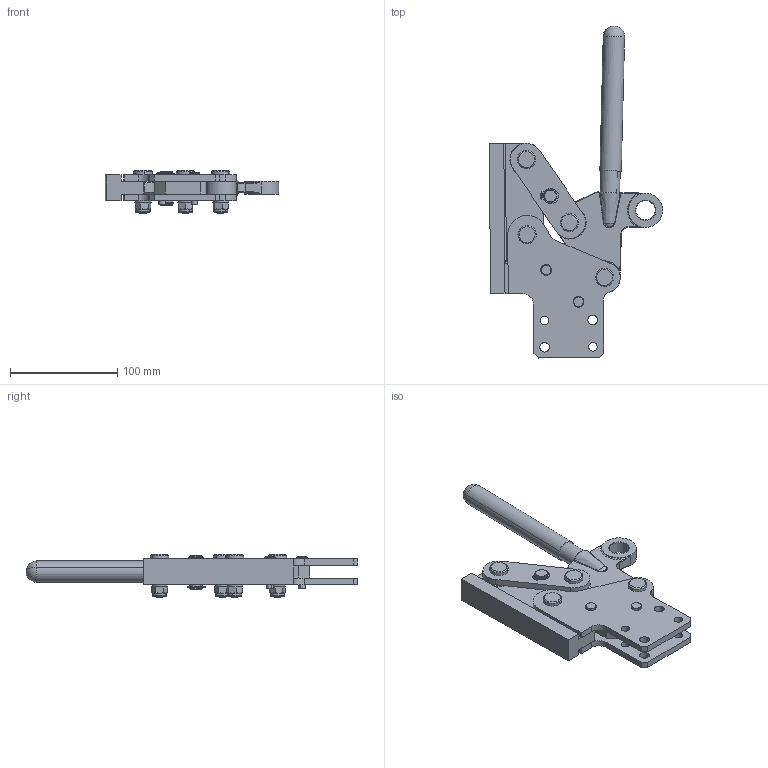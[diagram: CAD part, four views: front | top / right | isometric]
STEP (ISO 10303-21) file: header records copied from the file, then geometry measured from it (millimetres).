
FILE_DESCRIPTION (( 'STEP AP214' ), '1' );
FILE_NAME ('207_B.STEP', '2024-09-11T05:37:40', ( '' ), ( '' ), 'SwSTEP 2.0', 'SolidWorks 2023', '' );
FILE_SCHEMA (( 'AUTOMOTIVE_DESIGN' ));
Length unit declared in the file: millimetre
Products named in the file (16): M8 YAYLI RONDELA; 207_B; FZK_207_B_03_00; FZK_207_B_10_00; DIN 471 Ø12x1 DIŞ SEGMAN; FZK_207_B_08_00; FZK_207_B_09_00; FZK_207_B_04_00; FZK_207_B_07_00; M8 FİBERLİ SOMUN; FZK_207_B_05_00; FZK_207_B_02_00; FZK_207_B_06_00; FZK_207_B_01_00; DALDIRMA SAP; Ø14xØ12x10 PAP BURÇ
Assembly tree (30 placements, depth 2):
  207_B
    FZK_207_B_02_00
    FZK_207_B_04_00
    FZK_207_B_03_00  x2
    FZK_207_B_08_00
    FZK_207_B_06_00
    FZK_207_B_05_00  x2
    FZK_207_B_09_00
    FZK_207_B_07_00
    FZK_207_B_01_00  x4
    FZK_207_B_10_00
    DALDIRMA SAP
    M8 YAYLI RONDELA  x4
    M8 FİBERLİ SOMUN  x4
    Ø14xØ12x10 PAP BURÇ  x4
    DIN 471 Ø12x1 DIŞ SEGMAN  x2
Bounding box: 161.57 x 309.36 x 40.1 mm (x, y, z)
Volume: 391906.9 mm3; surface area: 134411.6 mm2
Topology: 30 solids, 30 shells, 702 faces, 1606 edges, 963 vertices
Faces by surface type: cylinder 280, plane 181, cone 156, torus 41, bspline 38, sphere 6
Entity records: 14217 total; most frequent: CARTESIAN_POINT 3913, DIRECTION 2188, ORIENTED_EDGE 1940, EDGE_CURVE 970, AXIS2_PLACEMENT_3D 898, VERTEX_POINT 597, EDGE_LOOP 491, CIRCLE 480
